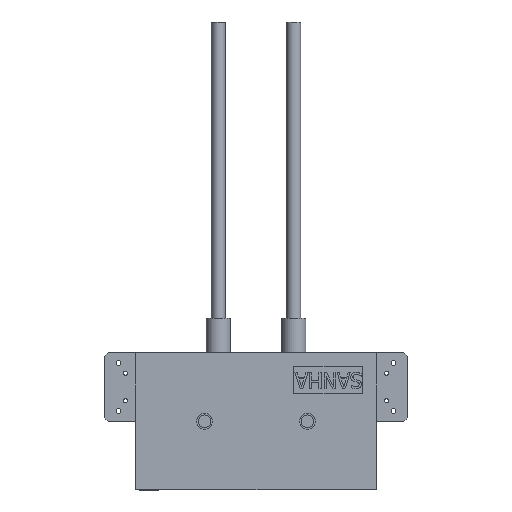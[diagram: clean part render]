
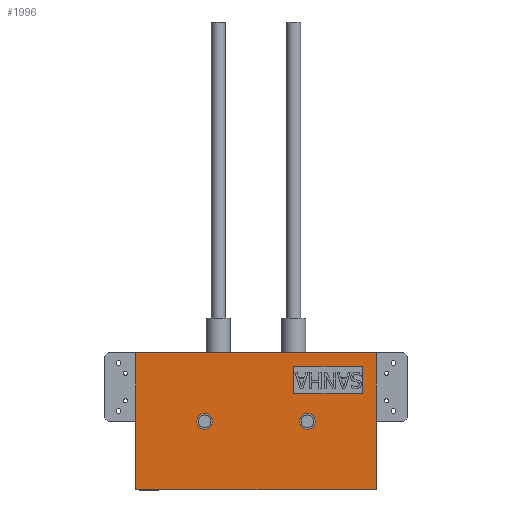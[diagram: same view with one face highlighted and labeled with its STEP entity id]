
A CAD part, top view. The second image highlights one B-rep face of the part: STEP entity #1996.
In plain terms, the highlighted planar face has unit normal (0, 0, 1) as drawn and (1, 0, 0) by its records, which use the part's own axes.
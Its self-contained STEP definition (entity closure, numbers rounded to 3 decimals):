
#126=FACE_BOUND('',#406,.T.);
#127=FACE_BOUND('',#407,.T.);
#128=FACE_BOUND('',#408,.T.);
#154=CIRCLE('',#2179,11.5);
#157=CIRCLE('',#2184,11.5);
#270=FACE_OUTER_BOUND('',#405,.T.);
#405=EDGE_LOOP('',(#1745,#1746,#1747,#1748));
#406=EDGE_LOOP('',(#1749,#1750,#1751,#1752));
#407=EDGE_LOOP('',(#1753));
#408=EDGE_LOOP('',(#1754));
#442=LINE('',#2709,#644);
#447=LINE('',#2718,#649);
#450=LINE('',#2728,#652);
#616=LINE('',#3341,#818);
#619=LINE('',#3346,#821);
#621=LINE('',#3350,#823);
#623=LINE('',#3353,#825);
#624=LINE('',#3400,#826);
#644=VECTOR('',#2237,10.);
#649=VECTOR('',#2244,10.);
#652=VECTOR('',#2253,10.);
#818=VECTOR('',#2533,10.);
#821=VECTOR('',#2538,10.);
#823=VECTOR('',#2542,10.);
#825=VECTOR('',#2546,10.);
#826=VECTOR('',#2611,10.);
#845=VERTEX_POINT('',#2705);
#847=VERTEX_POINT('',#2708);
#850=VERTEX_POINT('',#2716);
#854=VERTEX_POINT('',#2726);
#987=VERTEX_POINT('',#3339);
#988=VERTEX_POINT('',#3340);
#989=VERTEX_POINT('',#3345);
#990=VERTEX_POINT('',#3349);
#998=VERTEX_POINT('',#3378);
#1001=VERTEX_POINT('',#3386);
#1030=EDGE_CURVE('',#847,#845,#442,.T.);
#1035=EDGE_CURVE('',#845,#850,#447,.T.);
#1040=EDGE_CURVE('',#850,#854,#450,.T.);
#1238=EDGE_CURVE('',#987,#988,#616,.T.);
#1241=EDGE_CURVE('',#989,#987,#619,.T.);
#1243=EDGE_CURVE('',#990,#989,#621,.T.);
#1245=EDGE_CURVE('',#988,#990,#623,.T.);
#1253=EDGE_CURVE('',#998,#998,#154,.T.);
#1256=EDGE_CURVE('',#1001,#1001,#157,.T.);
#1260=EDGE_CURVE('',#854,#847,#624,.T.);
#1745=ORIENTED_EDGE('',*,*,#1030,.T.);
#1746=ORIENTED_EDGE('',*,*,#1035,.T.);
#1747=ORIENTED_EDGE('',*,*,#1040,.T.);
#1748=ORIENTED_EDGE('',*,*,#1260,.T.);
#1749=ORIENTED_EDGE('',*,*,#1238,.T.);
#1750=ORIENTED_EDGE('',*,*,#1245,.T.);
#1751=ORIENTED_EDGE('',*,*,#1243,.T.);
#1752=ORIENTED_EDGE('',*,*,#1241,.T.);
#1753=ORIENTED_EDGE('',*,*,#1253,.T.);
#1754=ORIENTED_EDGE('',*,*,#1256,.T.);
#1888=PLANE('',#2194);
#1996=ADVANCED_FACE('',(#270,#126,#127,#128),#1888,.T.);
#2179=AXIS2_PLACEMENT_3D('',#3379,#2581,#2582);
#2184=AXIS2_PLACEMENT_3D('',#3387,#2591,#2592);
#2194=AXIS2_PLACEMENT_3D('',#3401,#2612,#2613);
#2237=DIRECTION('',(0.,-1.,0.));
#2244=DIRECTION('',(0.,0.,-1.));
#2253=DIRECTION('',(0.,1.,0.));
#2533=DIRECTION('',(0.,-1.,0.));
#2538=DIRECTION('',(0.,0.,-1.));
#2542=DIRECTION('',(0.,1.,0.));
#2546=DIRECTION('',(0.,0.,1.));
#2581=DIRECTION('center_axis',(-1.,0.,0.));
#2582=DIRECTION('ref_axis',(0.,0.,1.));
#2591=DIRECTION('center_axis',(-1.,0.,0.));
#2592=DIRECTION('ref_axis',(0.,0.,1.));
#2611=DIRECTION('',(0.,0.,1.));
#2612=DIRECTION('center_axis',(1.,0.,0.));
#2613=DIRECTION('ref_axis',(0.,0.,-1.));
#2705=CARTESIAN_POINT('',(50.,0.,0.));
#2708=CARTESIAN_POINT('',(50.,200.,0.));
#2709=CARTESIAN_POINT('',(50.,0.,0.));
#2716=CARTESIAN_POINT('',(50.,0.,-350.));
#2718=CARTESIAN_POINT('',(50.,0.,-350.));
#2726=CARTESIAN_POINT('',(50.,200.,-350.));
#2728=CARTESIAN_POINT('',(50.,200.,-350.));
#3339=CARTESIAN_POINT('',(50.,60.,-120.));
#3340=CARTESIAN_POINT('',(50.,20.,-120.));
#3341=CARTESIAN_POINT('',(50.,80.,-120.));
#3345=CARTESIAN_POINT('',(50.,60.,-20.));
#3346=CARTESIAN_POINT('',(50.,60.,-97.5));
#3349=CARTESIAN_POINT('',(50.,20.,-20.));
#3350=CARTESIAN_POINT('',(50.,60.,-20.));
#3353=CARTESIAN_POINT('',(50.,20.,-147.5));
#3378=CARTESIAN_POINT('',(50.,100.,-111.5));
#3379=CARTESIAN_POINT('Origin',(50.,100.,-100.));
#3386=CARTESIAN_POINT('',(50.,100.,-261.5));
#3387=CARTESIAN_POINT('Origin',(50.,100.,-250.));
#3400=CARTESIAN_POINT('',(50.,200.,0.));
#3401=CARTESIAN_POINT('Origin',(50.,100.,-175.));
